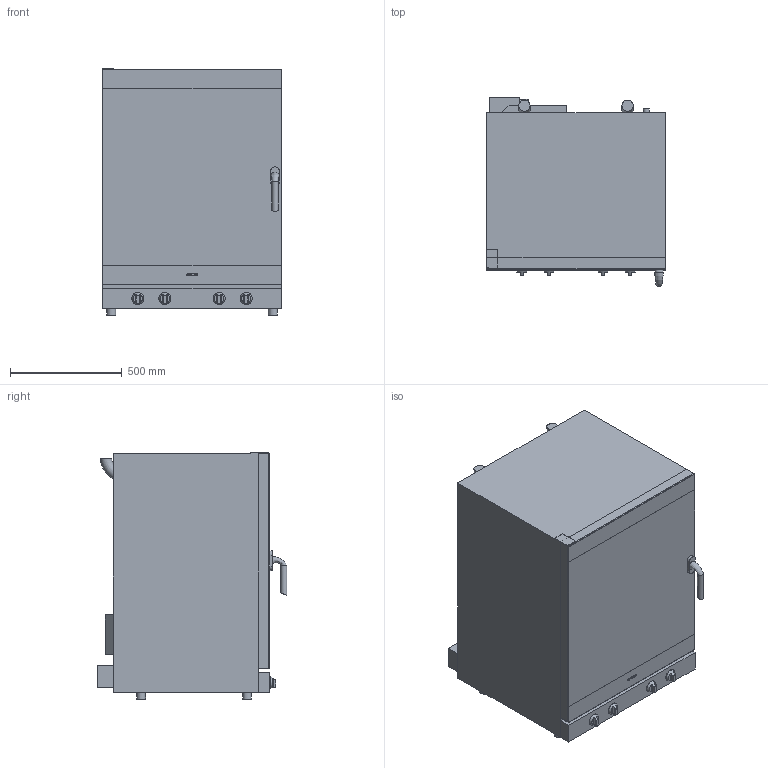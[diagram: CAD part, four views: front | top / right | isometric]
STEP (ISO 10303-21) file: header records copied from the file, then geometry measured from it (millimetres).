
FILE_DESCRIPTION(/* description */ (''),/* implementation_level */ '2;1');
FILE_NAME(/* name */ 'forno prof alfa1035h.stp',/* time_stamp */ '2018-03-21T11:36:10+01:00',/* author */ (''),/* organization */ (''),/* preprocessor_version */ 'ST-DEVELOPER v16',/* originating_system */ 'SIEMENS PLM Software NX 11.0',/* authorisation */ '');
FILE_SCHEMA (('AUTOMOTIVE_DESIGN { 1 0 10303 214 3 1 1 1 }'));
Length unit declared in the file: millimetre
Products named in the file (1): gobb167095B2xm7x
Bounding box: 798 x 847.2 x 1100.5 mm (x, y, z)
Volume: 597750975.9 mm3; surface area: 9739633 mm2
Topology: 23 solids, 23 shells, 226 faces, 488 edges, 323 vertices
Faces by surface type: plane 150, cylinder 58, extrusion 11, cone 4, torus 2, bspline 1
Full cylindrical faces by diameter (mm): 4.608 x6, 5 x1, 10 x1, 18.363 x1, 20 x4, 26 x1, 27 x1, 40 x5, 54 x4
Entity records: 6866 total; most frequent: CARTESIAN_POINT 1941, DIRECTION 948, ORIENTED_EDGE 890, EDGE_CURVE 445, AXIS2_PLACEMENT_3D 328, VERTEX_POINT 312, VECTOR 292, EDGE_LOOP 281
